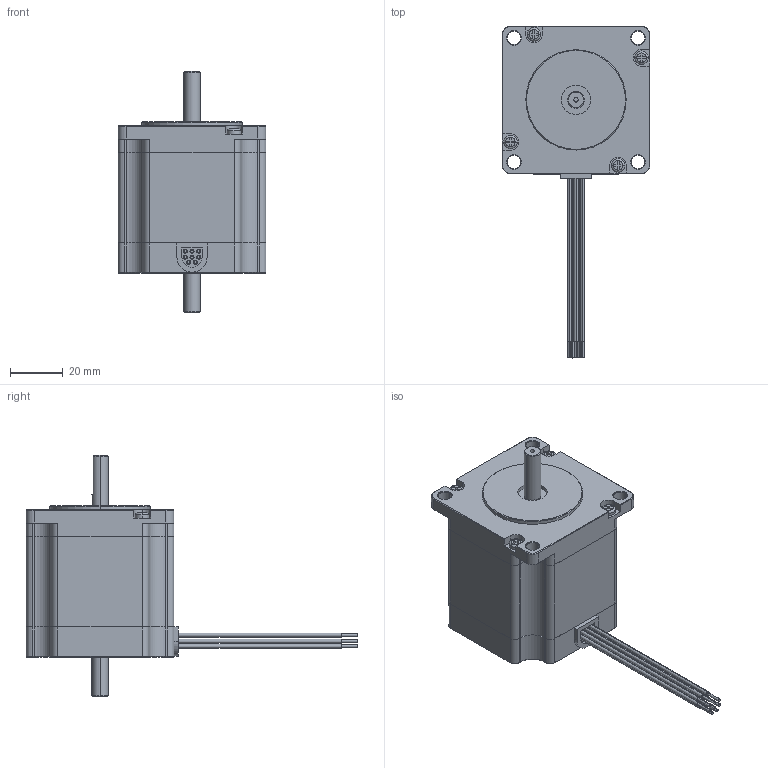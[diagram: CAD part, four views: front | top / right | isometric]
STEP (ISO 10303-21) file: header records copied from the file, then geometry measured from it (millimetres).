
FILE_DESCRIPTION (( 'STEP AP214' ), '1' );
FILE_NAME ('23Y102D-LW8.STEP', '2010-06-11T15:22:44', ( 'Tim Raines' ), ( 'Anaheim Automation' ), 'SwSTEP 2.0', 'SolidWorks 2010', '' );
FILE_SCHEMA (( 'AUTOMOTIVE_DESIGN' ));
Length unit declared in the file: inch
Products named in the file (1): 23Y102D-LW8
Bounding box: 56.13 x 125.98 x 91.54 mm (x, y, z)
Volume: 161470.1 mm3; surface area: 22333.8 mm2
Topology: 1 solids, 1 shells, 348 faces, 858 edges, 540 vertices
Faces by surface type: plane 164, cylinder 121, cone 55, torus 8
Entity records: 14746 total; most frequent: DIRECTION 1845, CARTESIAN_POINT 1741, ORIENTED_EDGE 1692, EDGE_CURVE 846, AXIS2_PLACEMENT_3D 652, LINE 541, VECTOR 541, VERTEX_POINT 540
